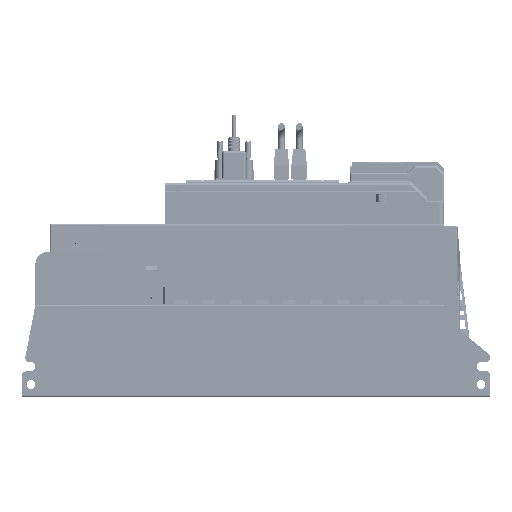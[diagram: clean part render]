
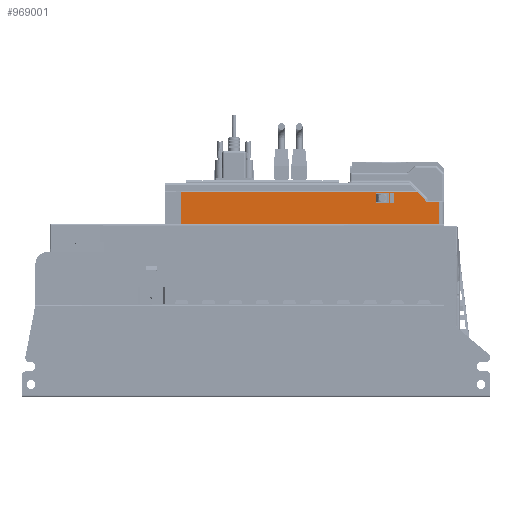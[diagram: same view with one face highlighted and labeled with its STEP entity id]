
A CAD part, front view. The second image highlights one B-rep face of the part: STEP entity #969001.
In plain terms, the highlighted planar face has unit normal (0, -1, 0).
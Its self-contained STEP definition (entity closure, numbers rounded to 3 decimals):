
#905327=CARTESIAN_POINT('Vertex',(260.61,-165.,154.)) ;
#905330=CARTESIAN_POINT('Line Origine',(145.966,-165.,154.)) ;
#905334=CARTESIAN_POINT('Vertex',(31.322,-165.,154.)) ;
#910730=CARTESIAN_POINT('Vertex',(260.61,-165.,173.767)) ;
#910910=CARTESIAN_POINT('Vertex',(249.774,-165.,173.767)) ;
#910913=CARTESIAN_POINT('Line Origine',(262.303,-165.,173.767)) ;
#912039=CARTESIAN_POINT('Vertex',(31.322,-165.,182.5)) ;
#912042=CARTESIAN_POINT('Line Origine',(264.121,-165.,182.5)) ;
#912046=CARTESIAN_POINT('Vertex',(242.403,-165.,182.5)) ;
#912466=CARTESIAN_POINT('Line Origine',(217.41,-165.,177.325)) ;
#912470=CARTESIAN_POINT('Vertex',(217.41,-165.,182.15)) ;
#912472=CARTESIAN_POINT('Vertex',(217.41,-165.,172.5)) ;
#912506=CARTESIAN_POINT('Line Origine',(219.319,-165.,182.15)) ;
#912510=CARTESIAN_POINT('Vertex',(221.228,-165.,182.15)) ;
#912537=CARTESIAN_POINT('Line Origine',(221.228,-165.,177.325)) ;
#912541=CARTESIAN_POINT('Vertex',(221.228,-165.,172.5)) ;
#912568=CARTESIAN_POINT('Line Origine',(219.319,-165.,172.5)) ;
#963141=CARTESIAN_POINT('Vertex',(216.04,-165.,181.95)) ;
#963148=CARTESIAN_POINT('Vertex',(216.04,-165.,173.05)) ;
#963151=CARTESIAN_POINT('Line Origine',(216.04,-165.,177.5)) ;
#963168=CARTESIAN_POINT('Axis2P3D Location',(215.84,-165.,181.95)) ;
#963172=CARTESIAN_POINT('Vertex',(215.84,-165.,182.15)) ;
#963192=CARTESIAN_POINT('Line Origine',(210.39,-165.,182.15)) ;
#963196=CARTESIAN_POINT('Vertex',(204.94,-165.,182.15)) ;
#963216=CARTESIAN_POINT('Axis2P3D Location',(204.94,-165.,181.95)) ;
#963220=CARTESIAN_POINT('Vertex',(204.74,-165.,181.95)) ;
#963244=CARTESIAN_POINT('Vertex',(204.74,-165.,173.05)) ;
#963247=CARTESIAN_POINT('Line Origine',(204.74,-165.,177.5)) ;
#963264=CARTESIAN_POINT('Axis2P3D Location',(204.94,-165.,173.05)) ;
#963268=CARTESIAN_POINT('Vertex',(204.94,-165.,172.85)) ;
#963292=CARTESIAN_POINT('Vertex',(215.84,-165.,172.85)) ;
#963295=CARTESIAN_POINT('Line Origine',(210.39,-165.,172.85)) ;
#963313=CARTESIAN_POINT('Control Point',(216.04,-165.,173.05)) ;
#963314=CARTESIAN_POINT('Control Point',(216.04,-165.,172.972)) ;
#963315=CARTESIAN_POINT('Control Point',(215.998,-165.,172.892)) ;
#963316=CARTESIAN_POINT('Control Point',(215.919,-165.,172.85)) ;
#963317=CARTESIAN_POINT('Control Point',(215.84,-165.,172.85)) ;
#963331=CARTESIAN_POINT('Line Origine',(249.701,-165.,175.202)) ;
#963335=CARTESIAN_POINT('Vertex',(248.29,-165.,176.613)) ;
#963368=CARTESIAN_POINT('Control Point',(248.728,-165.,175.63)) ;
#963369=CARTESIAN_POINT('Control Point',(248.71,-165.,175.907)) ;
#963370=CARTESIAN_POINT('Control Point',(248.632,-165.,176.176)) ;
#963371=CARTESIAN_POINT('Control Point',(248.484,-165.,176.414)) ;
#963372=CARTESIAN_POINT('Control Point',(248.29,-165.,176.613)) ;
#963373=CARTESIAN_POINT('Vertex',(248.728,-165.,175.63)) ;
#963393=CARTESIAN_POINT('Line Origine',(248.688,-165.,176.393)) ;
#963397=CARTESIAN_POINT('Vertex',(248.776,-165.,174.715)) ;
#964182=CARTESIAN_POINT('Axis2P3D Location',(249.774,-165.,174.767)) ;
#968878=CARTESIAN_POINT('Axis2P3D Location',(15.295,-165.,185.96)) ;
#968964=CARTESIAN_POINT('Line Origine',(31.322,-165.,168.25)) ;
#968969=CARTESIAN_POINT('Line Origine',(260.61,-165.,163.884)) ;
#905331=DIRECTION('Vector Direction',(-1.,0.,0.)) ;
#910914=DIRECTION('Vector Direction',(-1.,0.,0.)) ;
#912043=DIRECTION('Vector Direction',(-1.,0.,0.)) ;
#912467=DIRECTION('Vector Direction',(0.,0.,-1.)) ;
#912507=DIRECTION('Vector Direction',(-1.,0.,0.)) ;
#912538=DIRECTION('Vector Direction',(0.,0.,1.)) ;
#912569=DIRECTION('Vector Direction',(1.,0.,0.)) ;
#963152=DIRECTION('Vector Direction',(0.,0.,-1.)) ;
#963169=DIRECTION('Axis2P3D Direction',(0.,1.,0.)) ;
#963193=DIRECTION('Vector Direction',(1.,0.,0.)) ;
#963217=DIRECTION('Axis2P3D Direction',(0.,1.,0.)) ;
#963248=DIRECTION('Vector Direction',(0.,0.,1.)) ;
#963265=DIRECTION('Axis2P3D Direction',(0.,1.,0.)) ;
#963296=DIRECTION('Vector Direction',(-1.,0.,0.)) ;
#963332=DIRECTION('Vector Direction',(-0.707,0.,0.707)) ;
#963394=DIRECTION('Vector Direction',(0.052,0.,-0.999)) ;
#964183=DIRECTION('Axis2P3D Direction',(0.,-1.,0.)) ;
#968879=DIRECTION('Axis2P3D Direction',(0.,-1.,0.)) ;
#968880=DIRECTION('Axis2P3D XDirection',(-1.,0.,0.)) ;
#968965=DIRECTION('Vector Direction',(0.,0.,-1.)) ;
#968970=DIRECTION('Vector Direction',(0.,0.,1.)) ;
#963170=AXIS2_PLACEMENT_3D('Circle Axis2P3D',#963168,#963169,$) ;
#963218=AXIS2_PLACEMENT_3D('Circle Axis2P3D',#963216,#963217,$) ;
#963266=AXIS2_PLACEMENT_3D('Circle Axis2P3D',#963264,#963265,$) ;
#964184=AXIS2_PLACEMENT_3D('Circle Axis2P3D',#964182,#964183,$) ;
#968881=AXIS2_PLACEMENT_3D('Plane Axis2P3D',#968878,#968879,#968880) ;
#968975=ORIENTED_EDGE('',*,*,#910917,.T.) ;
#968976=ORIENTED_EDGE('',*,*,#964186,.T.) ;
#968977=ORIENTED_EDGE('',*,*,#963399,.T.) ;
#968978=ORIENTED_EDGE('',*,*,#963375,.T.) ;
#968979=ORIENTED_EDGE('',*,*,#963337,.T.) ;
#968980=ORIENTED_EDGE('',*,*,#912048,.T.) ;
#968981=ORIENTED_EDGE('',*,*,#968968,.T.) ;
#968982=ORIENTED_EDGE('',*,*,#905336,.F.) ;
#968983=ORIENTED_EDGE('',*,*,#968973,.T.) ;
#968986=ORIENTED_EDGE('',*,*,#963318,.T.) ;
#968987=ORIENTED_EDGE('',*,*,#963299,.T.) ;
#968988=ORIENTED_EDGE('',*,*,#963270,.T.) ;
#968989=ORIENTED_EDGE('',*,*,#963251,.T.) ;
#968990=ORIENTED_EDGE('',*,*,#963222,.T.) ;
#968991=ORIENTED_EDGE('',*,*,#963198,.T.) ;
#968992=ORIENTED_EDGE('',*,*,#963174,.T.) ;
#968993=ORIENTED_EDGE('',*,*,#963155,.T.) ;
#968996=ORIENTED_EDGE('',*,*,#912474,.F.) ;
#968997=ORIENTED_EDGE('',*,*,#912512,.F.) ;
#968998=ORIENTED_EDGE('',*,*,#912543,.F.) ;
#968999=ORIENTED_EDGE('',*,*,#912572,.F.) ;
#968994=FACE_BOUND('',#968985,.T.) ;
#969000=FACE_BOUND('',#968995,.T.) ;
#905332=VECTOR('Line Direction',#905331,1.) ;
#910915=VECTOR('Line Direction',#910914,1.) ;
#912044=VECTOR('Line Direction',#912043,1.) ;
#912468=VECTOR('Line Direction',#912467,1.) ;
#912508=VECTOR('Line Direction',#912507,1.) ;
#912539=VECTOR('Line Direction',#912538,1.) ;
#912570=VECTOR('Line Direction',#912569,1.) ;
#963153=VECTOR('Line Direction',#963152,1.) ;
#963194=VECTOR('Line Direction',#963193,1.) ;
#963249=VECTOR('Line Direction',#963248,1.) ;
#963297=VECTOR('Line Direction',#963296,1.) ;
#963333=VECTOR('Line Direction',#963332,1.) ;
#963395=VECTOR('Line Direction',#963394,1.) ;
#968966=VECTOR('Line Direction',#968965,1.) ;
#968971=VECTOR('Line Direction',#968970,1.) ;
#969001=ADVANCED_FACE('BREP_136',(#968984,#968994,#969000),#968882,.T.) ;
#963312=B_SPLINE_CURVE_WITH_KNOTS('',4,(#963313,#963314,#963315,#963316,#963317),.UNSPECIFIED.,.F.,.U.,(5,5),(-0.157,0.157),.UNSPECIFIED.) ;
#963367=B_SPLINE_CURVE_WITH_KNOTS('',4,(#963368,#963369,#963370,#963371,#963372),.UNSPECIFIED.,.F.,.U.,(5,5),(0.,1.559),.UNSPECIFIED.) ;
#963171=CIRCLE('generated circle',#963170,0.2) ;
#963219=CIRCLE('generated circle',#963218,0.2) ;
#963267=CIRCLE('generated circle',#963266,0.2) ;
#964185=CIRCLE('generated circle',#964184,1.) ;
#905336=EDGE_CURVE('',#905328,#905335,#905333,.T.) ;
#910917=EDGE_CURVE('',#910731,#910911,#910916,.T.) ;
#912048=EDGE_CURVE('',#912047,#912040,#912045,.T.) ;
#912474=EDGE_CURVE('',#912471,#912473,#912469,.T.) ;
#912512=EDGE_CURVE('',#912511,#912471,#912509,.T.) ;
#912543=EDGE_CURVE('',#912542,#912511,#912540,.T.) ;
#912572=EDGE_CURVE('',#912473,#912542,#912571,.T.) ;
#963155=EDGE_CURVE('',#963142,#963149,#963154,.T.) ;
#963174=EDGE_CURVE('',#963173,#963142,#963171,.T.) ;
#963198=EDGE_CURVE('',#963197,#963173,#963195,.T.) ;
#963222=EDGE_CURVE('',#963221,#963197,#963219,.T.) ;
#963251=EDGE_CURVE('',#963245,#963221,#963250,.T.) ;
#963270=EDGE_CURVE('',#963269,#963245,#963267,.T.) ;
#963299=EDGE_CURVE('',#963293,#963269,#963298,.T.) ;
#963318=EDGE_CURVE('',#963149,#963293,#963312,.T.) ;
#963337=EDGE_CURVE('',#963336,#912047,#963334,.T.) ;
#963375=EDGE_CURVE('',#963374,#963336,#963367,.T.) ;
#963399=EDGE_CURVE('',#963398,#963374,#963396,.F.) ;
#964186=EDGE_CURVE('',#910911,#963398,#964185,.F.) ;
#968968=EDGE_CURVE('',#912040,#905335,#968967,.T.) ;
#968973=EDGE_CURVE('',#905328,#910731,#968972,.T.) ;
#968974=EDGE_LOOP('',(#968975,#968976,#968977,#968978,#968979,#968980,#968981,#968982,#968983)) ;
#968985=EDGE_LOOP('',(#968986,#968987,#968988,#968989,#968990,#968991,#968992,#968993)) ;
#968995=EDGE_LOOP('',(#968996,#968997,#968998,#968999)) ;
#968984=FACE_OUTER_BOUND('',#968974,.T.) ;
#905333=LINE('Line',#905330,#905332) ;
#910916=LINE('Line',#910913,#910915) ;
#912045=LINE('Line',#912042,#912044) ;
#912469=LINE('Line',#912466,#912468) ;
#912509=LINE('Line',#912506,#912508) ;
#912540=LINE('Line',#912537,#912539) ;
#912571=LINE('Line',#912568,#912570) ;
#963154=LINE('Line',#963151,#963153) ;
#963195=LINE('Line',#963192,#963194) ;
#963250=LINE('Line',#963247,#963249) ;
#963298=LINE('Line',#963295,#963297) ;
#963334=LINE('Line',#963331,#963333) ;
#963396=LINE('Line',#963393,#963395) ;
#968967=LINE('Line',#968964,#968966) ;
#968972=LINE('Line',#968969,#968971) ;
#968882=PLANE('',#968881) ;
#905328=VERTEX_POINT('',#905327) ;
#905335=VERTEX_POINT('',#905334) ;
#910731=VERTEX_POINT('',#910730) ;
#910911=VERTEX_POINT('',#910910) ;
#912040=VERTEX_POINT('',#912039) ;
#912047=VERTEX_POINT('',#912046) ;
#912471=VERTEX_POINT('',#912470) ;
#912473=VERTEX_POINT('',#912472) ;
#912511=VERTEX_POINT('',#912510) ;
#912542=VERTEX_POINT('',#912541) ;
#963142=VERTEX_POINT('',#963141) ;
#963149=VERTEX_POINT('',#963148) ;
#963173=VERTEX_POINT('',#963172) ;
#963197=VERTEX_POINT('',#963196) ;
#963221=VERTEX_POINT('',#963220) ;
#963245=VERTEX_POINT('',#963244) ;
#963269=VERTEX_POINT('',#963268) ;
#963293=VERTEX_POINT('',#963292) ;
#963336=VERTEX_POINT('',#963335) ;
#963374=VERTEX_POINT('',#963373) ;
#963398=VERTEX_POINT('',#963397) ;
